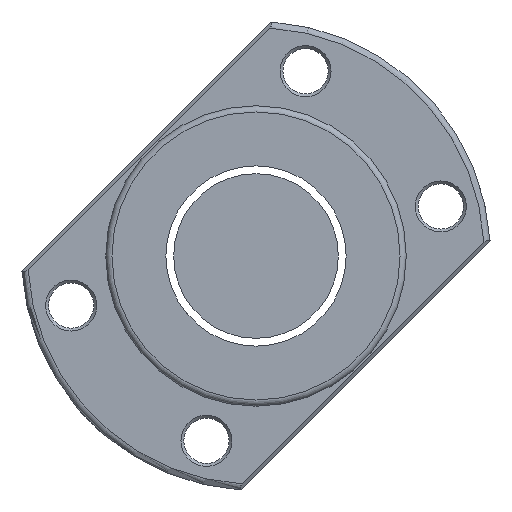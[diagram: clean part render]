
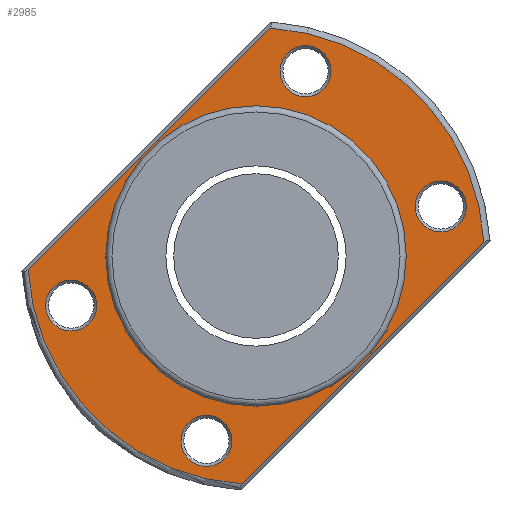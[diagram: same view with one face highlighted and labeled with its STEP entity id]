
A CAD part, left-side view. The second image highlights one B-rep face of the part: STEP entity #2985.
In plain terms, the highlighted planar face has unit normal (-1, 0, 0).
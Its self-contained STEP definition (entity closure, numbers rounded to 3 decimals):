
#43 = CIRCLE ( 'NONE', #2526, 55.5 ) ;
#68 = CARTESIAN_POINT ( 'NONE',  ( -150.5, 44.916, -12.035 ) ) ;
#108 = DIRECTION ( 'NONE',  ( 0., -0.707, 0.707 ) ) ;
#110 = CARTESIAN_POINT ( 'NONE',  ( -150.5, 54.522, -2.478 ) ) ;
#220 = DIRECTION ( 'NONE',  ( 1., 0., 0. ) ) ;
#240 = DIRECTION ( 'NONE',  ( 0., 0., 1. ) ) ;
#273 = VECTOR ( 'NONE', #108, 1000. ) ;
#280 = DIRECTION ( 'NONE',  ( 0., 0., 1. ) ) ;
#333 = CARTESIAN_POINT ( 'NONE',  ( -150.5, 0., -36.5 ) ) ;
#348 = CIRCLE ( 'NONE', #486, 6.2 ) ;
#394 = CARTESIAN_POINT ( 'NONE',  ( -150.5, 57., 0. ) ) ;
#402 = ORIENTED_EDGE ( 'NONE', *, *, #2963, .T. ) ;
#416 = VERTEX_POINT ( 'NONE', #2026 ) ;
#434 = DIRECTION ( 'NONE',  ( 1., 0., 0. ) ) ;
#486 = AXIS2_PLACEMENT_3D ( 'NONE', #2286, #434, #928 ) ;
#532 = CARTESIAN_POINT ( 'NONE',  ( -150.5, -44.916, 12.035 ) ) ;
#546 = CARTESIAN_POINT ( 'NONE',  ( -150.5, 44.916, -5.835 ) ) ;
#586 = CARTESIAN_POINT ( 'NONE',  ( -150.5, 0., 0. ) ) ;
#608 = CARTESIAN_POINT ( 'NONE',  ( -150.5, -44.916, 18.235 ) ) ;
#632 = EDGE_CURVE ( 'NONE', #416, #1338, #2561, .T. ) ;
#641 = FACE_OUTER_BOUND ( 'NONE', #851, .T. ) ;
#680 = CARTESIAN_POINT ( 'NONE',  ( -150.5, 0., 0. ) ) ;
#714 = EDGE_LOOP ( 'NONE', ( #1383 ) ) ;
#744 = CIRCLE ( 'NONE', #2413, 6.2 ) ;
#746 = DIRECTION ( 'NONE',  ( 0., 0., 1. ) ) ;
#749 = DIRECTION ( 'NONE',  ( 0., 0., 1. ) ) ;
#771 = EDGE_LOOP ( 'NONE', ( #2481 ) ) ;
#776 = VERTEX_POINT ( 'NONE', #546 ) ;
#824 = EDGE_CURVE ( 'NONE', #1232, #1232, #348, .T. ) ;
#851 = EDGE_LOOP ( 'NONE', ( #1065, #2085, #1749, #402 ) ) ;
#895 = VERTEX_POINT ( 'NONE', #2762 ) ;
#928 = DIRECTION ( 'NONE',  ( 0., 0., 1. ) ) ;
#949 = EDGE_CURVE ( 'NONE', #2153, #2153, #2734, .T. ) ;
#958 = DIRECTION ( 'NONE',  ( 0., 0., 1. ) ) ;
#1001 = CARTESIAN_POINT ( 'NONE',  ( -150.5, 12.035, -44.916 ) ) ;
#1002 = DIRECTION ( 'NONE',  ( 1., 0., 0. ) ) ;
#1050 = VERTEX_POINT ( 'NONE', #608 ) ;
#1065 = ORIENTED_EDGE ( 'NONE', *, *, #2935, .T. ) ;
#1100 = FACE_BOUND ( 'NONE', #771, .T. ) ;
#1189 = CARTESIAN_POINT ( 'NONE',  ( -150.5, 0., 0. ) ) ;
#1232 = VERTEX_POINT ( 'NONE', #1905 ) ;
#1246 = EDGE_CURVE ( 'NONE', #776, #776, #1665, .T. ) ;
#1331 = DIRECTION ( 'NONE',  ( -1., 0., 0. ) ) ;
#1338 = VERTEX_POINT ( 'NONE', #1966 ) ;
#1383 = ORIENTED_EDGE ( 'NONE', *, *, #1246, .T. ) ;
#1482 = CARTESIAN_POINT ( 'NONE',  ( -150.5, 2.478, -54.522 ) ) ;
#1517 = DIRECTION ( 'NONE',  ( -1., 0., 0. ) ) ;
#1524 = EDGE_LOOP ( 'NONE', ( #2233 ) ) ;
#1544 = EDGE_CURVE ( 'NONE', #2375, #2375, #744, .T. ) ;
#1573 = PLANE ( 'NONE',  #2928 ) ;
#1593 = EDGE_LOOP ( 'NONE', ( #2420 ) ) ;
#1622 = ORIENTED_EDGE ( 'NONE', *, *, #949, .T. ) ;
#1665 = CIRCLE ( 'NONE', #2059, 6.2 ) ;
#1749 = ORIENTED_EDGE ( 'NONE', *, *, #2225, .T. ) ;
#1801 = FACE_BOUND ( 'NONE', #714, .T. ) ;
#1846 = CIRCLE ( 'NONE', #2003, 6.2 ) ;
#1905 = CARTESIAN_POINT ( 'NONE',  ( -150.5, -12.035, 51.116 ) ) ;
#1910 = CARTESIAN_POINT ( 'NONE',  ( -150.5, -3.355, 55.398 ) ) ;
#1966 = CARTESIAN_POINT ( 'NONE',  ( -150.5, 3.355, -55.398 ) ) ;
#1976 = DIRECTION ( 'NONE',  ( 0., 0.707, -0.707 ) ) ;
#1996 = VERTEX_POINT ( 'NONE', #1910 ) ;
#2003 = AXIS2_PLACEMENT_3D ( 'NONE', #532, #2157, #749 ) ;
#2026 = CARTESIAN_POINT ( 'NONE',  ( -150.5, 55.398, -3.355 ) ) ;
#2059 = AXIS2_PLACEMENT_3D ( 'NONE', #68, #1002, #958 ) ;
#2085 = ORIENTED_EDGE ( 'NONE', *, *, #632, .T. ) ;
#2153 = VERTEX_POINT ( 'NONE', #333 ) ;
#2157 = DIRECTION ( 'NONE',  ( 1., 0., 0. ) ) ;
#2210 = LINE ( 'NONE', #110, #2625 ) ;
#2225 = EDGE_CURVE ( 'NONE', #1338, #895, #2678, .T. ) ;
#2233 = ORIENTED_EDGE ( 'NONE', *, *, #824, .T. ) ;
#2264 = FACE_BOUND ( 'NONE', #1524, .T. ) ;
#2286 = CARTESIAN_POINT ( 'NONE',  ( -150.5, -12.035, 44.916 ) ) ;
#2343 = AXIS2_PLACEMENT_3D ( 'NONE', #680, #220, #2524 ) ;
#2357 = DIRECTION ( 'NONE',  ( 1., 0., 0. ) ) ;
#2375 = VERTEX_POINT ( 'NONE', #2637 ) ;
#2413 = AXIS2_PLACEMENT_3D ( 'NONE', #1001, #2357, #280 ) ;
#2420 = ORIENTED_EDGE ( 'NONE', *, *, #2533, .T. ) ;
#2447 = DIRECTION ( 'NONE',  ( 0., 0., 1. ) ) ;
#2481 = ORIENTED_EDGE ( 'NONE', *, *, #1544, .T. ) ;
#2524 = DIRECTION ( 'NONE',  ( 0., 0., -1. ) ) ;
#2526 = AXIS2_PLACEMENT_3D ( 'NONE', #586, #1517, #2447 ) ;
#2533 = EDGE_CURVE ( 'NONE', #1050, #1050, #1846, .T. ) ;
#2561 = CIRCLE ( 'NONE', #2960, 55.5 ) ;
#2608 = DIRECTION ( 'NONE',  ( -1., 0., 0. ) ) ;
#2625 = VECTOR ( 'NONE', #1976, 1000. ) ;
#2637 = CARTESIAN_POINT ( 'NONE',  ( -150.5, 12.035, -38.716 ) ) ;
#2678 = LINE ( 'NONE', #1482, #273 ) ;
#2734 = CIRCLE ( 'NONE', #2343, 36.5 ) ;
#2737 = FACE_BOUND ( 'NONE', #3023, .T. ) ;
#2762 = CARTESIAN_POINT ( 'NONE',  ( -150.5, -55.398, 3.355 ) ) ;
#2928 = AXIS2_PLACEMENT_3D ( 'NONE', #394, #1331, #746 ) ;
#2935 = EDGE_CURVE ( 'NONE', #1996, #416, #2210, .T. ) ;
#2960 = AXIS2_PLACEMENT_3D ( 'NONE', #1189, #2608, #240 ) ;
#2963 = EDGE_CURVE ( 'NONE', #895, #1996, #43, .T. ) ;
#2966 = FACE_BOUND ( 'NONE', #1593, .T. ) ;
#2985 = ADVANCED_FACE ( 'NONE', ( #1100, #2966, #2264, #1801, #2737, #641 ), #1573, .T. ) ;
#3023 = EDGE_LOOP ( 'NONE', ( #1622 ) ) ;
